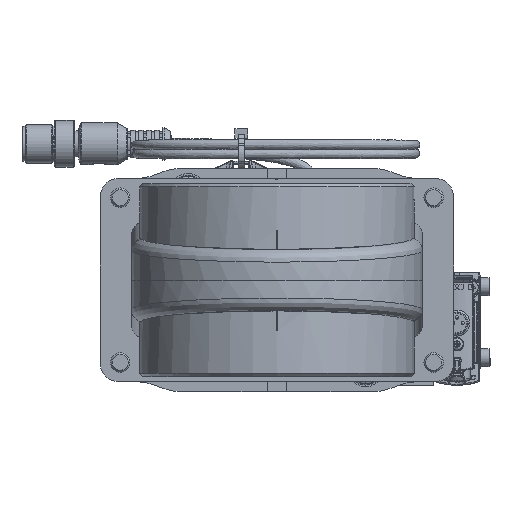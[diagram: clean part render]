
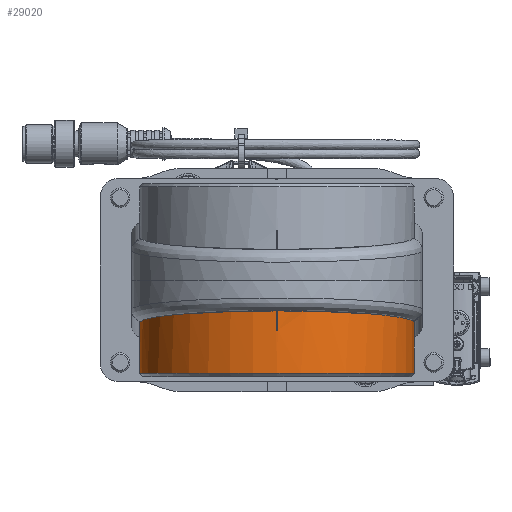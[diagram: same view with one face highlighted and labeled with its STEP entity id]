
A CAD part, front view. The second image highlights one B-rep face of the part: STEP entity #29020.
In plain terms, the highlighted cylindrical face has radius 42.5 mm (diameter 85 mm), a full revolution.
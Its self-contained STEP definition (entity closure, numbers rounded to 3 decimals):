
#6377=LINE('',#116349,#11989);
#6378=LINE('',#116353,#11990);
#11989=VECTOR('',#93434,1.);
#11990=VECTOR('',#93437,1.);
#17583=CIRCLE('',#84796,42.5);
#17584=CIRCLE('',#84798,42.5);
#29020=ADVANCED_FACE('BCT_REF_65662',(#35387,#35388),#33714,.T.);
#33714=CYLINDRICAL_SURFACE('',#84799,42.5);
#35387=FACE_BOUND('',#36475,.T.);
#35388=FACE_BOUND('',#36476,.T.);
#36475=EDGE_LOOP('',(#42501,#42502,#42503,#42504));
#36476=EDGE_LOOP('',(#42505));
#42501=ORIENTED_EDGE('',*,*,#72838,.T.);
#42502=ORIENTED_EDGE('',*,*,#72839,.T.);
#42503=ORIENTED_EDGE('',*,*,#72840,.T.);
#42504=ORIENTED_EDGE('',*,*,#72841,.F.);
#42505=ORIENTED_EDGE('',*,*,#72842,.T.);
#65342=VERTEX_POINT('',#116347);
#65343=VERTEX_POINT('',#116348);
#65344=VERTEX_POINT('',#116350);
#65345=VERTEX_POINT('',#116352);
#65346=VERTEX_POINT('',#116355);
#72838=EDGE_CURVE('',#65342,#65343,#17583,.T.);
#72839=EDGE_CURVE('',#65343,#65344,#6377,.T.);
#72840=EDGE_CURVE('BCT_REF_65661',#65344,#65345,#84100,.T.);
#72841=EDGE_CURVE('BCT_REF_216709',#65342,#65345,#6378,.T.);
#72842=EDGE_CURVE('',#65346,#65346,#17584,.T.);
#84100=ELLIPSE('',#84797,42.662,42.5);
#84796=AXIS2_PLACEMENT_3D('',#116346,#93432,#93433);
#84797=AXIS2_PLACEMENT_3D('',#116351,#93435,#93436);
#84798=AXIS2_PLACEMENT_3D('',#116354,#93438,#93439);
#84799=AXIS2_PLACEMENT_3D('',#116356,#93440,#93441);
#93432=DIRECTION('',(0.,0.,1.));
#93433=DIRECTION('',(-1.,0.,0.));
#93434=DIRECTION('',(0.,0.,-1.));
#93435=DIRECTION('',(0.,-0.087,0.996));
#93436=DIRECTION('',(0.,-0.996,-0.087));
#93437=DIRECTION('',(0.,0.,-1.));
#93438=DIRECTION('',(0.,0.,-1.));
#93439=DIRECTION('',(-1.,0.,0.));
#93440=DIRECTION('',(0.,0.,-1.));
#93441=DIRECTION('',(-1.,0.,0.));
#116346=CARTESIAN_POINT('',(0.,0.,6.));
#116347=CARTESIAN_POINT('',(-0.25,-42.499,6.));
#116348=CARTESIAN_POINT('',(0.25,-42.499,6.));
#116349=CARTESIAN_POINT('',(0.25,-42.499,0.));
#116350=CARTESIAN_POINT('',(0.25,-42.499,0.));
#116351=CARTESIAN_POINT('',(0.,0.,3.718));
#116352=CARTESIAN_POINT('',(-0.25,-42.499,0.));
#116353=CARTESIAN_POINT('',(-0.25,-42.499,0.));
#116354=CARTESIAN_POINT('',(0.,0.,19.368));
#116355=CARTESIAN_POINT('',(-42.5,0.,19.368));
#116356=CARTESIAN_POINT('',(0.,0.,0.));
